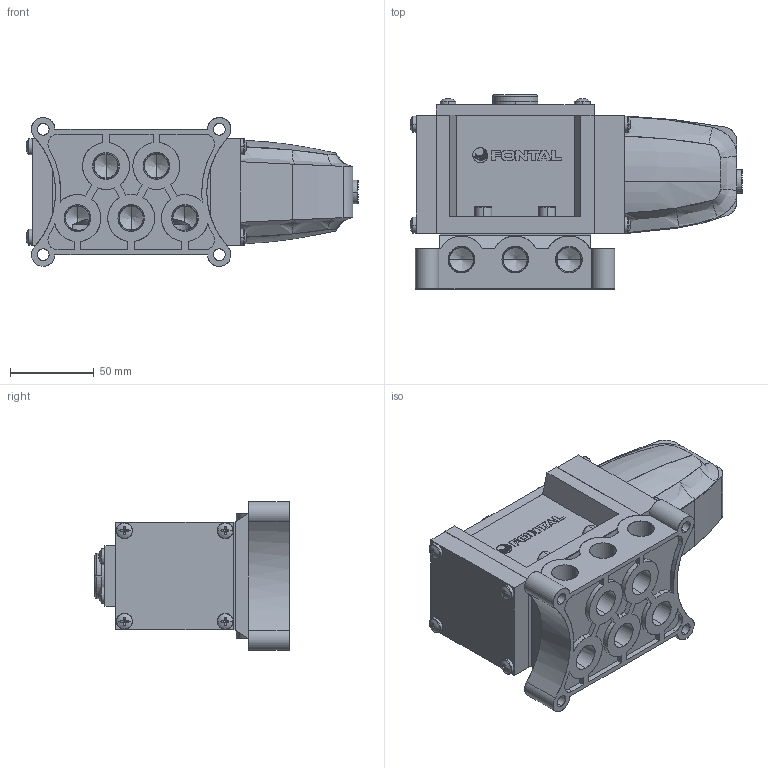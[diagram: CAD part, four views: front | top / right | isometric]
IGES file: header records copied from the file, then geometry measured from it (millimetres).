
Start section: SolidWorks IGES file using analytic representation for surfaces
Global section: file name: D:\Custom\3D繪製\A\A10\AS2410-03-##.IGS,1; native system: 5HSolidWorks 2014; preprocessor: SolidWorks 2014; author: Chieh_Lu; date: 151223.134644; units: millimetre
Bounding box: 197.63 x 115.6 x 88.6 mm (x, y, z)
Surface area: 148908.1 mm2 (no closed solid volume)
Topology: 0 solids, 0 shells, 900 faces, 10544 edges, 10496 vertices
Faces by surface type: bspline 540, revolution 360
